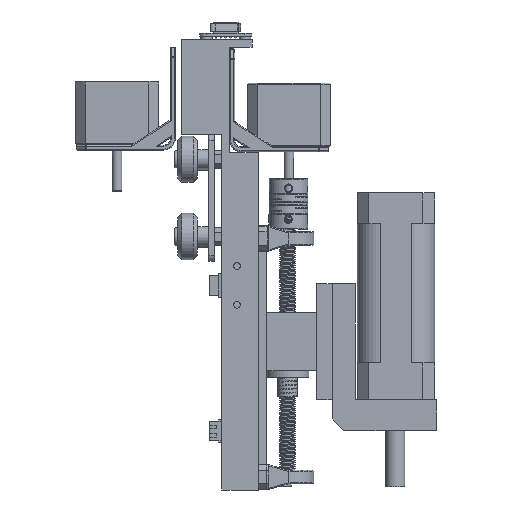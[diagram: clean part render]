
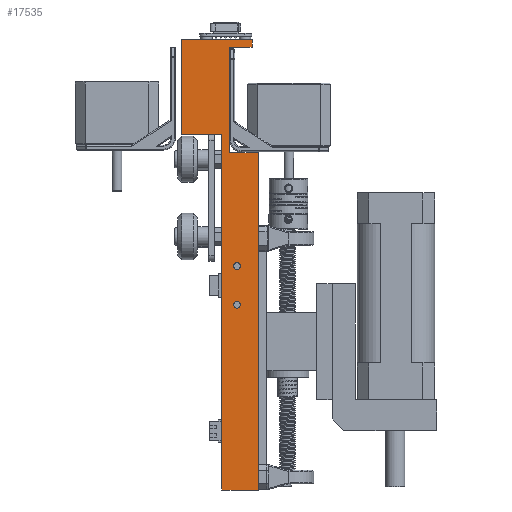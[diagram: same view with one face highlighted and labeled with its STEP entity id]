
A CAD part, left-side view. The second image highlights one B-rep face of the part: STEP entity #17535.
In plain terms, the highlighted planar face has unit normal (-1, 0, 0).
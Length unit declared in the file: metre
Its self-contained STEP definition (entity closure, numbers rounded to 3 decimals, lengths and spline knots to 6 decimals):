
#1602=LINE('',#27463,#2746);
#1619=LINE('',#27514,#2763);
#1638=LINE('',#27561,#2782);
#1656=LINE('',#27614,#2800);
#1657=LINE('',#27616,#2801);
#1658=LINE('',#27618,#2802);
#1659=LINE('',#27620,#2803);
#1660=LINE('',#27622,#2804);
#1661=LINE('',#27623,#2805);
#1662=LINE('',#27624,#2806);
#2746=VECTOR('',#22734,1.);
#2763=VECTOR('',#22769,1.);
#2782=VECTOR('',#22798,1.);
#2800=VECTOR('',#22856,1.);
#2801=VECTOR('',#22857,1.);
#2802=VECTOR('',#22858,1.);
#2803=VECTOR('',#22859,1.);
#2804=VECTOR('',#22860,1.);
#2805=VECTOR('',#22861,1.);
#2806=VECTOR('',#22862,1.);
#3534=PLANE('',#19797);
#5505=ORIENTED_EDGE('',*,*,#9568,.T.);
#5506=ORIENTED_EDGE('',*,*,#9569,.T.);
#5507=ORIENTED_EDGE('',*,*,#9494,.F.);
#5508=ORIENTED_EDGE('',*,*,#9570,.F.);
#5509=ORIENTED_EDGE('',*,*,#9571,.T.);
#5510=ORIENTED_EDGE('',*,*,#9572,.F.);
#5511=ORIENTED_EDGE('',*,*,#9573,.T.);
#5512=ORIENTED_EDGE('',*,*,#9574,.T.);
#5513=ORIENTED_EDGE('',*,*,#9519,.T.);
#5514=ORIENTED_EDGE('',*,*,#9575,.T.);
#5515=ORIENTED_EDGE('',*,*,#9542,.F.);
#5516=ORIENTED_EDGE('',*,*,#9576,.T.);
#9494=EDGE_CURVE('',#11655,#11656,#1602,.T.);
#9519=EDGE_CURVE('',#11678,#11680,#1619,.T.);
#9542=EDGE_CURVE('',#11703,#11704,#1638,.T.);
#9568=EDGE_CURVE('',#11717,#11717,#13142,.F.);
#9569=EDGE_CURVE('',#11718,#11718,#13143,.F.);
#9570=EDGE_CURVE('',#11719,#11655,#1656,.T.);
#9571=EDGE_CURVE('',#11719,#11720,#1657,.T.);
#9572=EDGE_CURVE('',#11721,#11720,#1658,.T.);
#9573=EDGE_CURVE('',#11721,#11722,#1659,.T.);
#9574=EDGE_CURVE('',#11722,#11678,#1660,.T.);
#9575=EDGE_CURVE('',#11680,#11704,#1661,.T.);
#9576=EDGE_CURVE('',#11703,#11656,#1662,.T.);
#11655=VERTEX_POINT('',#27462);
#11656=VERTEX_POINT('',#27464);
#11678=VERTEX_POINT('',#27509);
#11680=VERTEX_POINT('',#27513);
#11703=VERTEX_POINT('',#27560);
#11704=VERTEX_POINT('',#27562);
#11717=VERTEX_POINT('',#27611);
#11718=VERTEX_POINT('',#27613);
#11719=VERTEX_POINT('',#27615);
#11720=VERTEX_POINT('',#27617);
#11721=VERTEX_POINT('',#27619);
#11722=VERTEX_POINT('',#27621);
#13142=CIRCLE('',#19798,0.00175);
#13143=CIRCLE('',#19799,0.00175);
#14187=EDGE_LOOP('',(#5505));
#14188=EDGE_LOOP('',(#5506));
#14189=EDGE_LOOP('',(#5507,#5508,#5509,#5510,#5511,#5512,#5513,#5514,#5515,
#5516));
#15714=FACE_BOUND('',#14187,.T.);
#15715=FACE_BOUND('',#14188,.T.);
#15716=FACE_BOUND('',#14189,.T.);
#17535=ADVANCED_FACE('',(#15714,#15715,#15716),#3534,.T.);
#19797=AXIS2_PLACEMENT_3D('',#27609,#22850,#22851);
#19798=AXIS2_PLACEMENT_3D('',#27610,#22852,#22853);
#19799=AXIS2_PLACEMENT_3D('',#27612,#22854,#22855);
#22734=DIRECTION('',(0.,0.,-1.));
#22769=DIRECTION('',(0.,0.,-1.));
#22798=DIRECTION('',(0.,0.,-1.));
#22850=DIRECTION('',(-1.,0.,0.));
#22851=DIRECTION('',(0.,0.,1.));
#22852=DIRECTION('',(-1.,0.,0.));
#22853=DIRECTION('',(0.,0.,1.));
#22854=DIRECTION('',(-1.,0.,0.));
#22855=DIRECTION('',(0.,0.,1.));
#22856=DIRECTION('',(0.,1.,0.));
#22857=DIRECTION('',(0.,0.,1.));
#22858=DIRECTION('',(0.,-1.,0.));
#22859=DIRECTION('',(0.,0.,-1.));
#22860=DIRECTION('',(0.,-1.,0.));
#22861=DIRECTION('',(0.,-1.,0.));
#22862=DIRECTION('',(0.,1.,0.));
#27462=CARTESIAN_POINT('',(-0.021408,0.,0.181201));
#27463=CARTESIAN_POINT('',(-0.021408,0.,0.155551));
#27464=CARTESIAN_POINT('',(-0.021408,0.,0.126751));
#27509=CARTESIAN_POINT('',(-0.021408,0.004,0.135901));
#27513=CARTESIAN_POINT('',(-0.021408,0.004,-0.047779));
#27514=CARTESIAN_POINT('',(-0.021408,0.004,0.155551));
#27560=CARTESIAN_POINT('',(-0.021408,-0.014841,0.126751));
#27561=CARTESIAN_POINT('',(-0.021408,-0.014841,0.039486));
#27562=CARTESIAN_POINT('',(-0.021408,-0.014841,-0.047779));
#27609=CARTESIAN_POINT('',(-0.021408,0.004,0.155551));
#27610=CARTESIAN_POINT('',(-0.021408,-0.003841,0.048021));
#27611=CARTESIAN_POINT('',(-0.021408,-0.003841,0.049771));
#27612=CARTESIAN_POINT('',(-0.021408,-0.003841,0.068021));
#27613=CARTESIAN_POINT('',(-0.021408,-0.003841,0.069771));
#27614=CARTESIAN_POINT('',(-0.021408,-0.01159,0.181201));
#27615=CARTESIAN_POINT('',(-0.021408,-0.01159,0.181201));
#27616=CARTESIAN_POINT('',(-0.021408,-0.01159,0.183201));
#27617=CARTESIAN_POINT('',(-0.021408,-0.01159,0.185201));
#27618=CARTESIAN_POINT('',(-0.021408,0.004,0.185201));
#27619=CARTESIAN_POINT('',(-0.021408,0.025,0.185201));
#27620=CARTESIAN_POINT('',(-0.021408,0.025,0.155551));
#27621=CARTESIAN_POINT('',(-0.021408,0.025,0.135901));
#27622=CARTESIAN_POINT('',(-0.021408,0.025,0.135901));
#27623=CARTESIAN_POINT('',(-0.021408,0.004,-0.047779));
#27624=CARTESIAN_POINT('',(-0.021408,-0.014841,0.126751));
